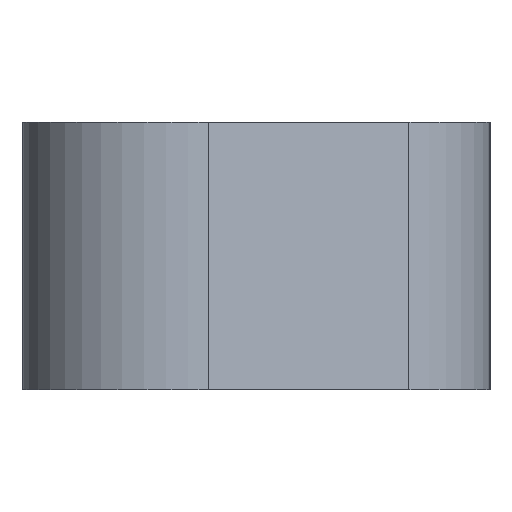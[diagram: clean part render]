
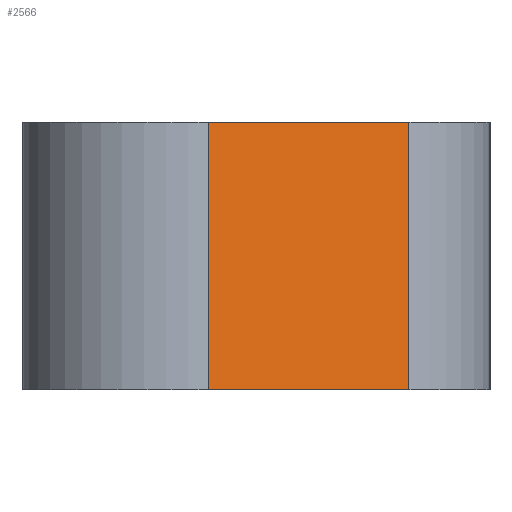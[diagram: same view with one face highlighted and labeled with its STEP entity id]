
A CAD part, left-side view. The second image highlights one B-rep face of the part: STEP entity #2566.
In plain terms, the highlighted planar face has unit normal (-0.919, -0.394, 0).
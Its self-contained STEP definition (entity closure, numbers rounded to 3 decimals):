
#370 = VERTEX_POINT ( 'NONE', #2015 ) ;
#405 = CARTESIAN_POINT ( 'NONE',  ( -69.026, 21.061, 0. ) ) ;
#492 = CARTESIAN_POINT ( 'NONE',  ( -75., 35., 20. ) ) ;
#547 = ORIENTED_EDGE ( 'NONE', *, *, #848, .T. ) ;
#606 = EDGE_CURVE ( 'NONE', #370, #2281, #2220, .T. ) ;
#609 = CARTESIAN_POINT ( 'NONE',  ( -62.597, 6.061, 20. ) ) ;
#645 = DIRECTION ( 'NONE',  ( 0., 0., 1. ) ) ;
#785 = VERTEX_POINT ( 'NONE', #1533 ) ;
#844 = DIRECTION ( 'NONE',  ( 0.394, -0.919, 0. ) ) ;
#848 = EDGE_CURVE ( 'NONE', #2281, #1458, #2309, .T. ) ;
#979 = EDGE_CURVE ( 'NONE', #370, #785, #2190, .T. ) ;
#1043 = CARTESIAN_POINT ( 'NONE',  ( -75., 35., 0. ) ) ;
#1077 = PLANE ( 'NONE',  #1514 ) ;
#1203 = DIRECTION ( 'NONE',  ( -0.394, 0.919, 0. ) ) ;
#1220 = DIRECTION ( 'NONE',  ( 0., 0., -1. ) ) ;
#1260 = FACE_OUTER_BOUND ( 'NONE', #1571, .T. ) ;
#1273 = DIRECTION ( 'NONE',  ( -0.919, -0.394, 0. ) ) ;
#1326 = CARTESIAN_POINT ( 'NONE',  ( -75., 35., 20. ) ) ;
#1412 = VECTOR ( 'NONE', #1220, 1000. ) ;
#1458 = VERTEX_POINT ( 'NONE', #1894 ) ;
#1514 = AXIS2_PLACEMENT_3D ( 'NONE', #492, #1273, #844 ) ;
#1533 = CARTESIAN_POINT ( 'NONE',  ( -69.026, 21.061, 0. ) ) ;
#1571 = EDGE_LOOP ( 'NONE', ( #2199, #2169, #547, #2329 ) ) ;
#1894 = CARTESIAN_POINT ( 'NONE',  ( -69.026, 21.061, 20. ) ) ;
#1998 = LINE ( 'NONE', #405, #1412 ) ;
#2015 = CARTESIAN_POINT ( 'NONE',  ( -62.597, 6.061, 0. ) ) ;
#2065 = VECTOR ( 'NONE', #1203, 1000. ) ;
#2120 = DIRECTION ( 'NONE',  ( -0.394, 0.919, 0. ) ) ;
#2169 = ORIENTED_EDGE ( 'NONE', *, *, #606, .T. ) ;
#2183 = VECTOR ( 'NONE', #2120, 1000. ) ;
#2190 = LINE ( 'NONE', #1043, #2065 ) ;
#2199 = ORIENTED_EDGE ( 'NONE', *, *, #979, .F. ) ;
#2220 = LINE ( 'NONE', #2446, #2563 ) ;
#2281 = VERTEX_POINT ( 'NONE', #609 ) ;
#2292 = EDGE_CURVE ( 'NONE', #1458, #785, #1998, .T. ) ;
#2309 = LINE ( 'NONE', #1326, #2183 ) ;
#2329 = ORIENTED_EDGE ( 'NONE', *, *, #2292, .T. ) ;
#2446 = CARTESIAN_POINT ( 'NONE',  ( -62.597, 6.061, 20. ) ) ;
#2563 = VECTOR ( 'NONE', #645, 1000. ) ;
#2566 = ADVANCED_FACE ( 'NONE', ( #1260 ), #1077, .T. ) ;
